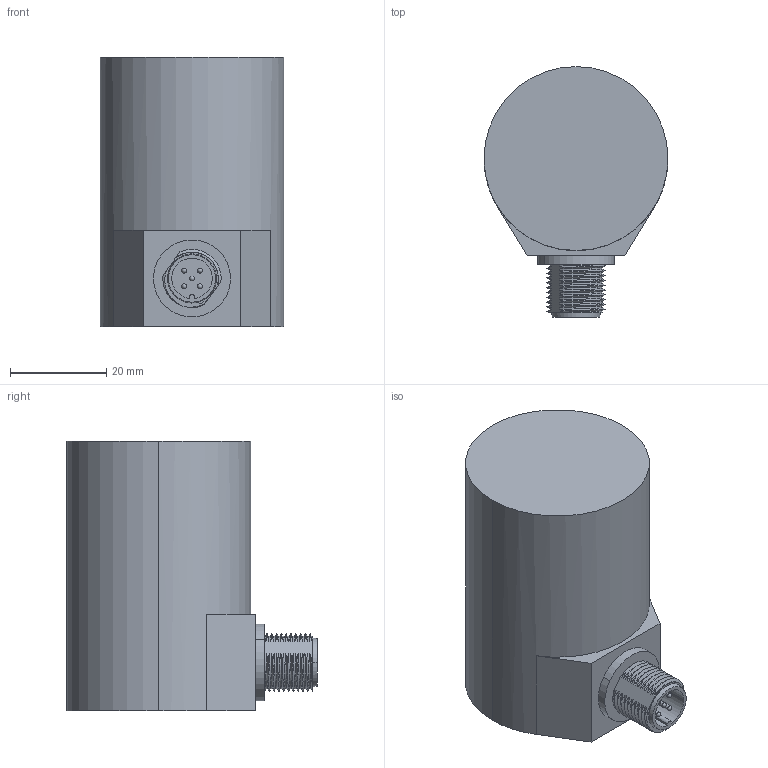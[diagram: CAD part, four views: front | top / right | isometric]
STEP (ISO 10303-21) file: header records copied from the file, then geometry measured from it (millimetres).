
FILE_DESCRIPTION (( 'STEP AP203' ), '1' );
FILE_NAME ('Drawing-MC-4-CR-569-4NM-NNN12B-N-PRM-N.STEP', '2013-05-21T10:05:12', ( '' ), ( '' ), 'SwSTEP 2.0', 'SolidWorks 2006104', '' );
FILE_SCHEMA (( 'CONFIG_CONTROL_DESIGN' ));
Length unit declared in the file: millimetre
Products named in the file (1): Drawing-MC-4-CR-569-4NM-NNN12B-N-PRM-N
Bounding box: 38.2 x 52 x 55.9 mm (x, y, z)
Volume: 8126.2 mm3; surface area: 20424.5 mm2
Topology: 3 solids, 3 shells, 160 faces, 498 edges, 349 vertices
Faces by surface type: cylinder 68, bspline 47, plane 26, torus 10, sphere 5, cone 4
Entity records: 8149 total; most frequent: CARTESIAN_POINT 4450, ORIENTED_EDGE 956, DIRECTION 555, EDGE_CURVE 478, VERTEX_POINT 339, AXIS2_PLACEMENT_3D 218, EDGE_LOOP 177, FACE_OUTER_BOUND 160
